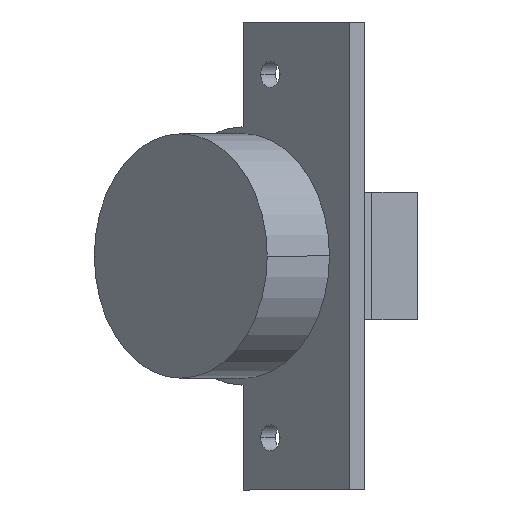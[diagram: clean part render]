
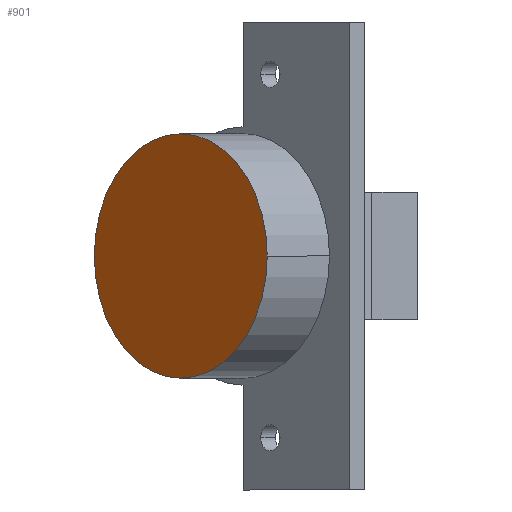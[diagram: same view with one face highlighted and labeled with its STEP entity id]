
A CAD part, front view. The second image highlights one B-rep face of the part: STEP entity #901.
In plain terms, the highlighted planar face has unit normal (-0.707, -0.707, 0).
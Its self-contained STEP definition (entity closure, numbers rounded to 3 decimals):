
#84 = EDGE_CURVE ( 'NONE', #987, #984, #618, .T. ) ;
#139 = EDGE_CURVE ( 'NONE', #984, #987, #708, .T. ) ;
#149 = AXIS2_PLACEMENT_3D ( 'NONE', #1158, #1161, #1162 ) ;
#154 = AXIS2_PLACEMENT_3D ( 'NONE', #1271, #1281, #1282 ) ;
#206 = AXIS2_PLACEMENT_3D ( 'NONE', #1465, #1468, #1469 ) ;
#322 = EDGE_LOOP ( 'NONE', ( #381, #380 ) ) ;
#380 = ORIENTED_EDGE ( 'NONE', *, *, #84, .T. ) ;
#381 = ORIENTED_EDGE ( 'NONE', *, *, #139, .T. ) ;
#618 = CIRCLE ( 'NONE', #149, 17.5 ) ;
#708 = CIRCLE ( 'NONE', #154, 17.5 ) ;
#773 = FACE_OUTER_BOUND ( 'NONE', #322, .T. ) ;
#901 = ADVANCED_FACE ( 'NONE', ( #773 ), #1466, .T. ) ;
#984 = VERTEX_POINT ( 'NONE', #1547 ) ;
#987 = VERTEX_POINT ( 'NONE', #1550 ) ;
#1158 = CARTESIAN_POINT ( 'NONE',  ( 7.69, -8.91, 0. ) ) ;
#1161 = DIRECTION ( 'NONE',  ( -0.707, -0.707, 0. ) ) ;
#1162 = DIRECTION ( 'NONE',  ( 0.707, -0.707, 0. ) ) ;
#1271 = CARTESIAN_POINT ( 'NONE',  ( 7.69, -8.91, 0. ) ) ;
#1281 = DIRECTION ( 'NONE',  ( -0.707, -0.707, 0. ) ) ;
#1282 = DIRECTION ( 'NONE',  ( 0.707, -0.707, 0. ) ) ;
#1465 = CARTESIAN_POINT ( 'NONE',  ( 7.69, -8.91, 0. ) ) ;
#1466 = PLANE ( 'NONE',  #206 ) ;
#1468 = DIRECTION ( 'NONE',  ( -0.707, -0.707, 0. ) ) ;
#1469 = DIRECTION ( 'NONE',  ( 0.707, -0.707, 0. ) ) ;
#1547 = CARTESIAN_POINT ( 'NONE',  ( -4.684, 3.465, 0. ) ) ;
#1550 = CARTESIAN_POINT ( 'NONE',  ( 20.065, -21.284, 0. ) ) ;
